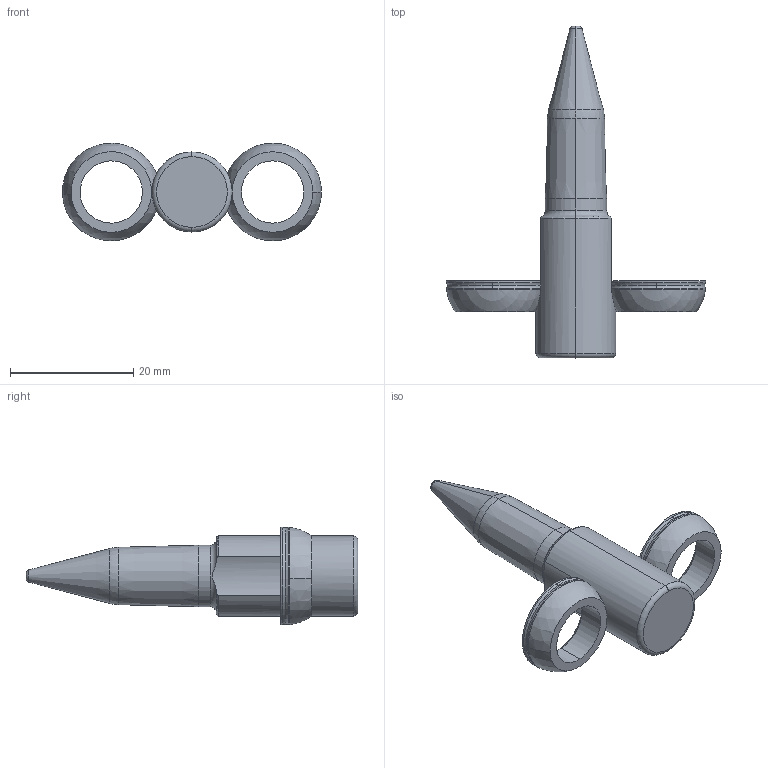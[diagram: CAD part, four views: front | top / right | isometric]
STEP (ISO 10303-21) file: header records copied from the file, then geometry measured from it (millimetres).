
FILE_DESCRIPTION (( 'STEP AP214' ), '1' );
FILE_NAME ('PA-T-10mm-1.9mm-13mm-3-A-F2.STEP', '2019-05-08T17:57:47', ( '' ), ( '' ), 'SwSTEP 2.0', 'SolidWorks 2017', '' );
FILE_SCHEMA (( 'AUTOMOTIVE_DESIGN' ));
Length unit declared in the file: inch
Products named in the file (3): PA-T-10mm-1.9mm-13mm-3-A-F2; SLPilot-PA-T-M_PA-T-10-1.9-13-3-A-F2; SLRadiusWasher_RadiusWasher-M
Assembly tree (3 placements, depth 2):
  PA-T-10mm-1.9mm-13mm-3-A-F2
    SLRadiusWasher_RadiusWasher-M  x2
    SLPilot-PA-T-M_PA-T-10-1.9-13-3-A-F2
Bounding box: 42.06 x 53.9 x 15.88 mm (x, y, z)
Volume: 5478.7 mm3; surface area: 2987.3 mm2
Topology: 3 solids, 3 shells, 61 faces, 136 edges, 81 vertices
Faces by surface type: torus 19, cylinder 18, cone 8, sphere 8, plane 8
Entity records: 1569 total; most frequent: CARTESIAN_POINT 348, DIRECTION 266, ORIENTED_EDGE 204, AXIS2_PLACEMENT_3D 123, EDGE_CURVE 102, CIRCLE 72, VERTEX_POINT 61, EDGE_LOOP 47
